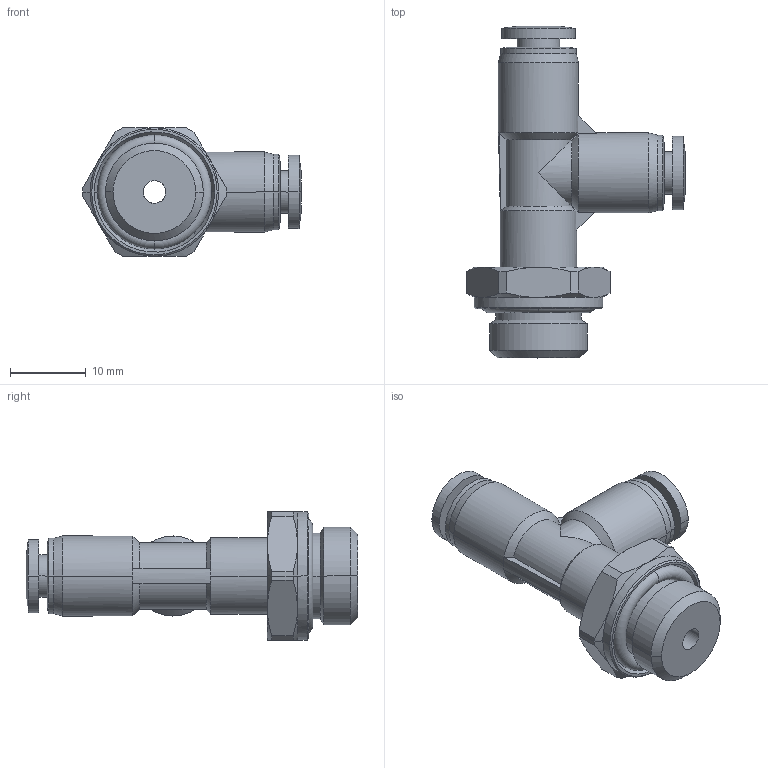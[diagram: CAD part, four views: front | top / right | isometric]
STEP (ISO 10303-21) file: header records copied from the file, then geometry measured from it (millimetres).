
FILE_DESCRIPTION (( 'STEP AP203' ), '1' );
FILE_NAME ('FLT04-02.STEP', '2020-05-12T14:14:33', ( '' ), ( '' ), 'SwSTEP 2.0', 'SolidWorks 2019', '' );
FILE_SCHEMA (( 'CONFIG_CONTROL_DESIGN' ));
Length unit declared in the file: millimetre
Products named in the file (1): FLT04-02
Bounding box: 28.95 x 43.95 x 17 mm (x, y, z)
Surface area: 3778.8 mm2 (no closed solid volume)
Topology: 0 solids, 4 shells, 122 faces, 295 edges, 184 vertices
Faces by surface type: cylinder 46, cone 40, plane 27, bspline 5, torus 4
Entity records: 5879 total; most frequent: CARTESIAN_POINT 3465, ORIENTED_EDGE 574, DIRECTION 303, EDGE_CURVE 295, B_SPLINE_CURVE_WITH_KNOTS 220, VERTEX_POINT 184, EDGE_LOOP 135, AXIS2_PLACEMENT_3D 122
